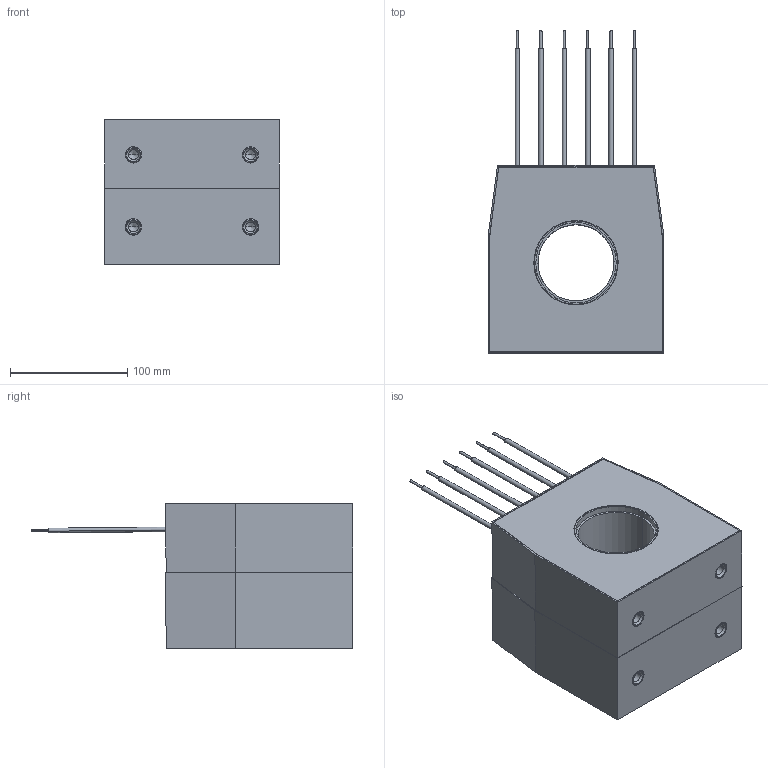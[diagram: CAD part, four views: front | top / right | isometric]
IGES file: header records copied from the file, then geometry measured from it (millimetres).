
Start section: IGES file generated from Kompas f.0 for Windows drawing by the IGES translator from Ascon Ltd., translator version IGESOUT-5.1.
Global section: file name: C:\Ðàáîòà\Èçâåùåíèÿ 5\ÒØÏ-ÍÒÇ-0.66-61...,71...,81... (ñáîðíûé)\Âåðñèÿ îò 21.05.24\3D ìîäåëü\ÒØÏ-ÍÒÇ-0,66-82Ñ\ÒØÏ-ÍÒÇ-0,66-82Ñ (65 ìì, 2-é ãàáàðèò).igs; native system: Kompas( 32 bit ) for Windows; preprocessor: 1.0; author: 123; organization: Microsoft; date: -17750727:094537; units: millimetre
Bounding box: 150 x 274.82 x 123.5 mm (x, y, z)
Volume: 497298 mm3; surface area: 314633.7 mm2
Topology: 15 solids, 15 shells, 274 faces, 613 edges, 385 vertices
Faces by surface type: revolution 158, bspline 116
